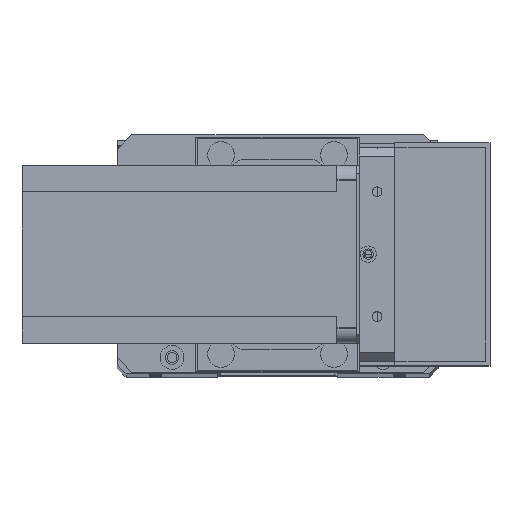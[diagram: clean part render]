
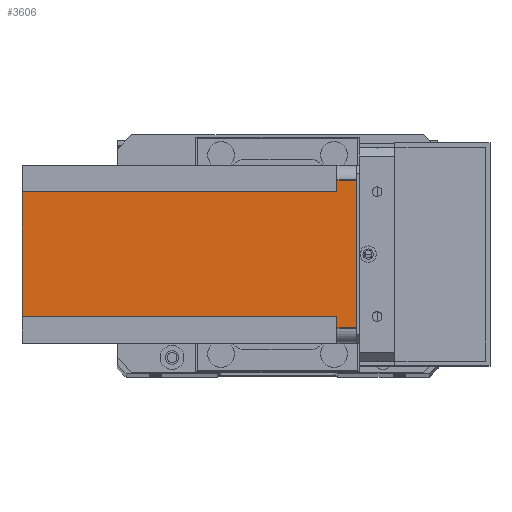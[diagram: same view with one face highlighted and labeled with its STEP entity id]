
A CAD part, top view. The second image highlights one B-rep face of the part: STEP entity #3606.
In plain terms, the highlighted planar face has unit normal (0, 0, 1) as drawn and (1, 0, 0) by its records, which use the part's own axes.
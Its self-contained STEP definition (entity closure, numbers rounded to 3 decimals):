
#131 = LINE ( 'NONE', #20549, #23574 ) ;
#219 = EDGE_CURVE ( 'NONE', #26463, #23133, #17021, .T. ) ;
#893 = DIRECTION ( 'NONE',  ( 0., 0., 1. ) ) ;
#1649 = VECTOR ( 'NONE', #13773, 1000. ) ;
#2029 = CARTESIAN_POINT ( 'NONE',  ( 60., 0., -112.5 ) ) ;
#2038 = DIRECTION ( 'NONE',  ( 0., -1., 0. ) ) ;
#2365 = LINE ( 'NONE', #16061, #1649 ) ;
#2710 = VERTEX_POINT ( 'NONE', #17492 ) ;
#2784 = VERTEX_POINT ( 'NONE', #6449 ) ;
#3342 = VERTEX_POINT ( 'NONE', #19225 ) ;
#3606 = ADVANCED_FACE ( 'NONE', ( #7546 ), #13354, .T. ) ;
#3966 = EDGE_CURVE ( 'NONE', #23133, #23308, #131, .T. ) ;
#4329 = EDGE_CURVE ( 'NONE', #15492, #23308, #26428, .T. ) ;
#4654 = VECTOR ( 'NONE', #21351, 1000. ) ;
#5013 = EDGE_CURVE ( 'NONE', #26463, #15186, #26005, .T. ) ;
#5755 = CARTESIAN_POINT ( 'NONE',  ( 60., 51., -6.5 ) ) ;
#5811 = DIRECTION ( 'NONE',  ( 0., 0., 1. ) ) ;
#6211 = CARTESIAN_POINT ( 'NONE',  ( 60., 60., -6.5 ) ) ;
#6359 = CARTESIAN_POINT ( 'NONE',  ( 60., 55., 0. ) ) ;
#6449 = CARTESIAN_POINT ( 'NONE',  ( 60., 5., 0. ) ) ;
#6934 = DIRECTION ( 'NONE',  ( 0., 0., -1. ) ) ;
#7013 = ORIENTED_EDGE ( 'NONE', *, *, #19554, .F. ) ;
#7546 = FACE_OUTER_BOUND ( 'NONE', #12207, .T. ) ;
#8069 = ORIENTED_EDGE ( 'NONE', *, *, #4329, .T. ) ;
#8840 = DIRECTION ( 'NONE',  ( 1., 0., 0. ) ) ;
#9804 = CARTESIAN_POINT ( 'NONE',  ( 60., 55., -112.5 ) ) ;
#10982 = VECTOR ( 'NONE', #2038, 1000. ) ;
#11652 = ORIENTED_EDGE ( 'NONE', *, *, #28241, .F. ) ;
#11946 = LINE ( 'NONE', #24517, #28692 ) ;
#12036 = AXIS2_PLACEMENT_3D ( 'NONE', #2029, #8840, #24757 ) ;
#12207 = EDGE_LOOP ( 'NONE', ( #15689, #14937, #11652, #23736, #7013, #28246, #8069, #17356 ) ) ;
#12277 = EDGE_CURVE ( 'NONE', #2784, #2710, #11946, .T. ) ;
#12816 = VECTOR ( 'NONE', #5811, 1000. ) ;
#13354 = PLANE ( 'NONE',  #12036 ) ;
#13773 = DIRECTION ( 'NONE',  ( 0., 1., 0. ) ) ;
#14394 = CARTESIAN_POINT ( 'NONE',  ( 60., 9., -112.5 ) ) ;
#14838 = CARTESIAN_POINT ( 'NONE',  ( 60., 9., -112.5 ) ) ;
#14937 = ORIENTED_EDGE ( 'NONE', *, *, #5013, .T. ) ;
#14998 = DIRECTION ( 'NONE',  ( 0., 1., 0. ) ) ;
#15186 = VERTEX_POINT ( 'NONE', #6359 ) ;
#15348 = VECTOR ( 'NONE', #893, 1000. ) ;
#15492 = VERTEX_POINT ( 'NONE', #14394 ) ;
#15689 = ORIENTED_EDGE ( 'NONE', *, *, #219, .F. ) ;
#16061 = CARTESIAN_POINT ( 'NONE',  ( 60., 0., 0. ) ) ;
#17021 = LINE ( 'NONE', #6211, #10982 ) ;
#17356 = ORIENTED_EDGE ( 'NONE', *, *, #3966, .F. ) ;
#17492 = CARTESIAN_POINT ( 'NONE',  ( 60., 5., -6.5 ) ) ;
#17778 = DIRECTION ( 'NONE',  ( 0., 0., -1. ) ) ;
#18068 = CARTESIAN_POINT ( 'NONE',  ( 60., 51., -112.5 ) ) ;
#18838 = LINE ( 'NONE', #14838, #12816 ) ;
#19075 = CARTESIAN_POINT ( 'NONE',  ( 60., 0., -6.5 ) ) ;
#19225 = CARTESIAN_POINT ( 'NONE',  ( 60., 9., -6.5 ) ) ;
#19554 = EDGE_CURVE ( 'NONE', #3342, #2710, #22763, .T. ) ;
#20549 = CARTESIAN_POINT ( 'NONE',  ( 60., 51., -112.5 ) ) ;
#20713 = EDGE_CURVE ( 'NONE', #15492, #3342, #18838, .T. ) ;
#21351 = DIRECTION ( 'NONE',  ( 0., -1., 0. ) ) ;
#22763 = LINE ( 'NONE', #19075, #4654 ) ;
#23133 = VERTEX_POINT ( 'NONE', #5755 ) ;
#23308 = VERTEX_POINT ( 'NONE', #18068 ) ;
#23574 = VECTOR ( 'NONE', #6934, 1000. ) ;
#23736 = ORIENTED_EDGE ( 'NONE', *, *, #12277, .T. ) ;
#24517 = CARTESIAN_POINT ( 'NONE',  ( 60., 5., -112.5 ) ) ;
#24757 = DIRECTION ( 'NONE',  ( 0., 1., 0. ) ) ;
#25685 = VECTOR ( 'NONE', #14998, 1000. ) ;
#26005 = LINE ( 'NONE', #9804, #15348 ) ;
#26239 = CARTESIAN_POINT ( 'NONE',  ( 60., 55., -6.5 ) ) ;
#26428 = LINE ( 'NONE', #28643, #25685 ) ;
#26463 = VERTEX_POINT ( 'NONE', #26239 ) ;
#28241 = EDGE_CURVE ( 'NONE', #2784, #15186, #2365, .T. ) ;
#28246 = ORIENTED_EDGE ( 'NONE', *, *, #20713, .F. ) ;
#28643 = CARTESIAN_POINT ( 'NONE',  ( 60., 0., -112.5 ) ) ;
#28692 = VECTOR ( 'NONE', #17778, 1000. ) ;
